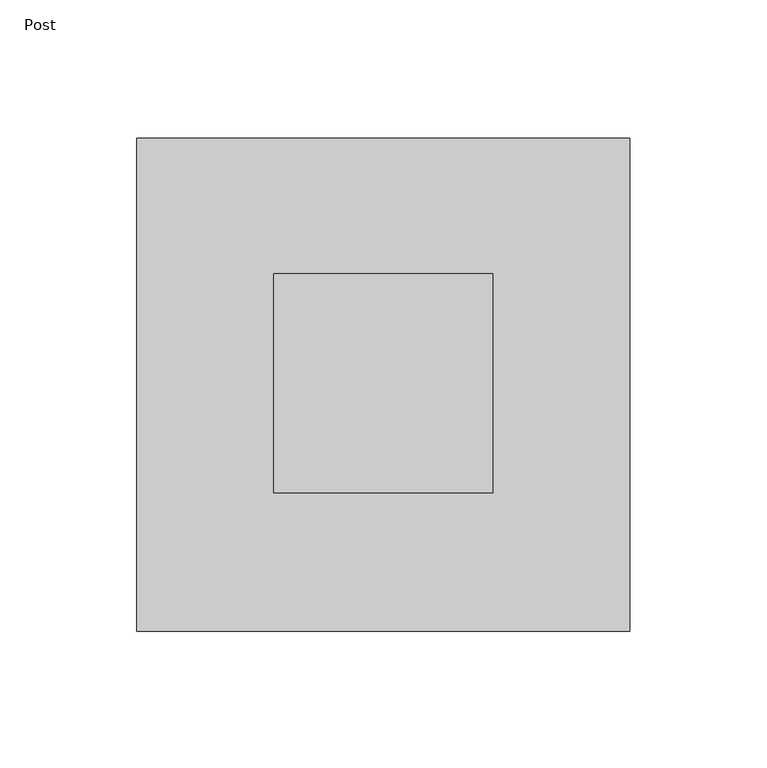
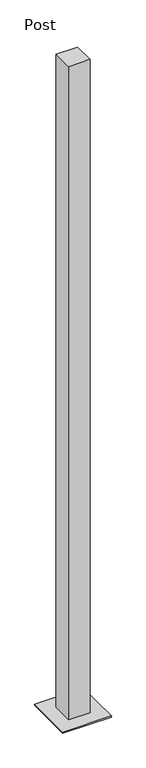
"""IFC4 building model written with IfcOpenShell, lengths in millimetres: proxy geometry, Post_Akva : Post."""

from ifc_helpers import new_model, si_unit, frame, origin, place, context, project, spatial, polyline, outline, extrude, source, transform, mapped, element, save


def post_5e804c5f(model_context):
    return source(origin(), model_context, "Body", "SweptSolid", [
        extrude(outline(polyline([(40.0, 40.0), (40.0, -40.0), (-40.0, -40.0), (-40.0, 40.0), (40.0, 40.0)])), frame((0.0, 0.0, -200.0), z_axis=(0.0, 0.0, 1.0), x_axis=(1.0, 0.0, 0.0)), (0.0, 0.0, 1.0), 2560.0),
        extrude(outline(polyline([(90.0, -90.0), (-90.0, -90.0), (-90.0, 90.0), (90.0, 90.0), (90.0, -90.0)])), frame((0.0, 0.0, -204.0), z_axis=(0.0, 0.0, 1.0), x_axis=(1.0, 0.0, 0.0)), (0.0, 0.0, 1.0), 4.0),
    ])


if __name__ == "__main__":
    model = new_model("IFC4")
    model_context = context("Model", 3, world=origin())
    ifc_project = project(units=[si_unit("LENGTHUNIT", "METRE", prefix="MILLI")], contexts=[model_context])
    site = spatial("IfcSite", under=ifc_project)
    building = spatial("IfcBuilding", under=site)
    placement = place(None, origin())
    post_shape = post_5e804c5f(model_context)
    element("IfcBuildingElementProxy", 1, Name="Post_Akva : Post", ObjectType="Post_Akva : Post", at=placement, inside=building, context=model_context, shape_type="MappedRepresentation", body=[
        mapped(post_shape, transform((0.0, 0.0, 0.0), x_axis=(1.0, 0.0, 0.0), y_axis=(0.0, 1.0, 0.0), z_axis=(0.0, 0.0, 1.0))),
    ])
    save(model, "model.ifc")
